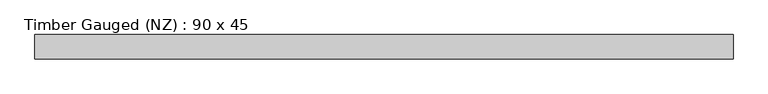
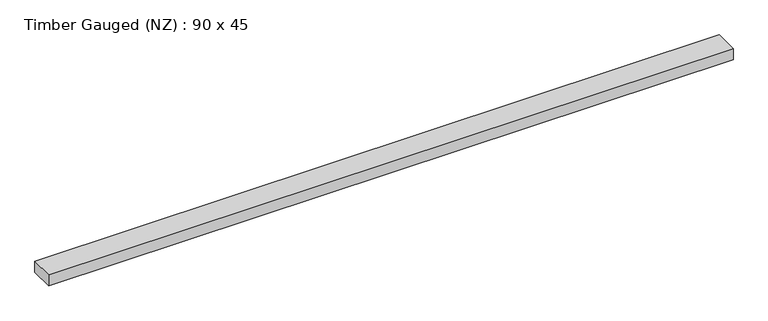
"""IFC4 building model written with IfcOpenShell, lengths in millimetres: beam geometry, Timber Gauged (NZ) : 90 x 45."""

from ifc_helpers import new_model, si_unit, frame, origin, place, context, project, spatial, polyline, outline, extrude, source, transform, mapped, element, save


def timber_gauged_nz_90_x_45_78b30380(model_context):
    return source(origin(), model_context, "Body", "SweptSolid", [
        extrude(outline(polyline([(1701.8785363, 45.0), (1701.8785363, -45.0), (-894.9592284, -45.0), (-894.9592284, 45.0), (1701.8785363, 45.0)])), frame((0.0, 0.0, -22.5), z_axis=(0.0, 0.0, 1.0), x_axis=(1.0, 0.0, 0.0)), (0.0, 0.0, 1.0), 45.0),
    ])


if __name__ == "__main__":
    model = new_model("IFC4")
    model_context = context("Model", 3, world=origin())
    ifc_project = project(units=[si_unit("LENGTHUNIT", "METRE", prefix="MILLI")], contexts=[model_context])
    site = spatial("IfcSite", under=ifc_project)
    building = spatial("IfcBuilding", under=site)
    placement = place(None, origin())
    timber_gauged_nz_90_x_45_shape = timber_gauged_nz_90_x_45_78b30380(model_context)
    element("IfcBeam", 1, ObjectType="Timber Gauged (NZ) : 90 x 45", at=placement, inside=building, context=model_context, shape_type="MappedRepresentation", body=[
        mapped(timber_gauged_nz_90_x_45_shape, transform((0.0, 0.0, 0.0), x_axis=(1.0, 0.0, 0.0), y_axis=(0.0, 1.0, 0.0), z_axis=(0.0, 0.0, 1.0))),
    ])
    save(model, "model.ifc")
